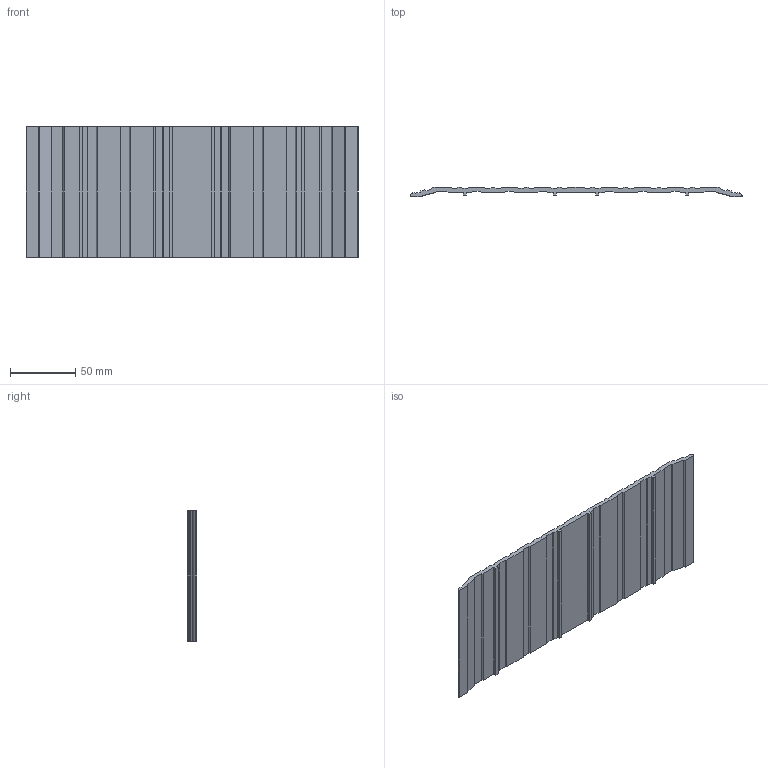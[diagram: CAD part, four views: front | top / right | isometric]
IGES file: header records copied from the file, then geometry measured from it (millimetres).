
Global section: file name: No Iges File Name specified; native system: Autodesk Inventor 2012; preprocessor: AutoDesk Inventor Iges Exporter R2012; author: anna.b; date: 20130731.145731; units: millimetre
Bounding box: 254 x 7 x 100 mm (x, y, z)
Volume: 86752.6 mm3; surface area: 56688.4 mm2
Topology: 1 solids, 1 shells, 142 faces, 420 edges, 280 vertices
Faces by surface type: plane 136, cylinder 4, revolution 2
